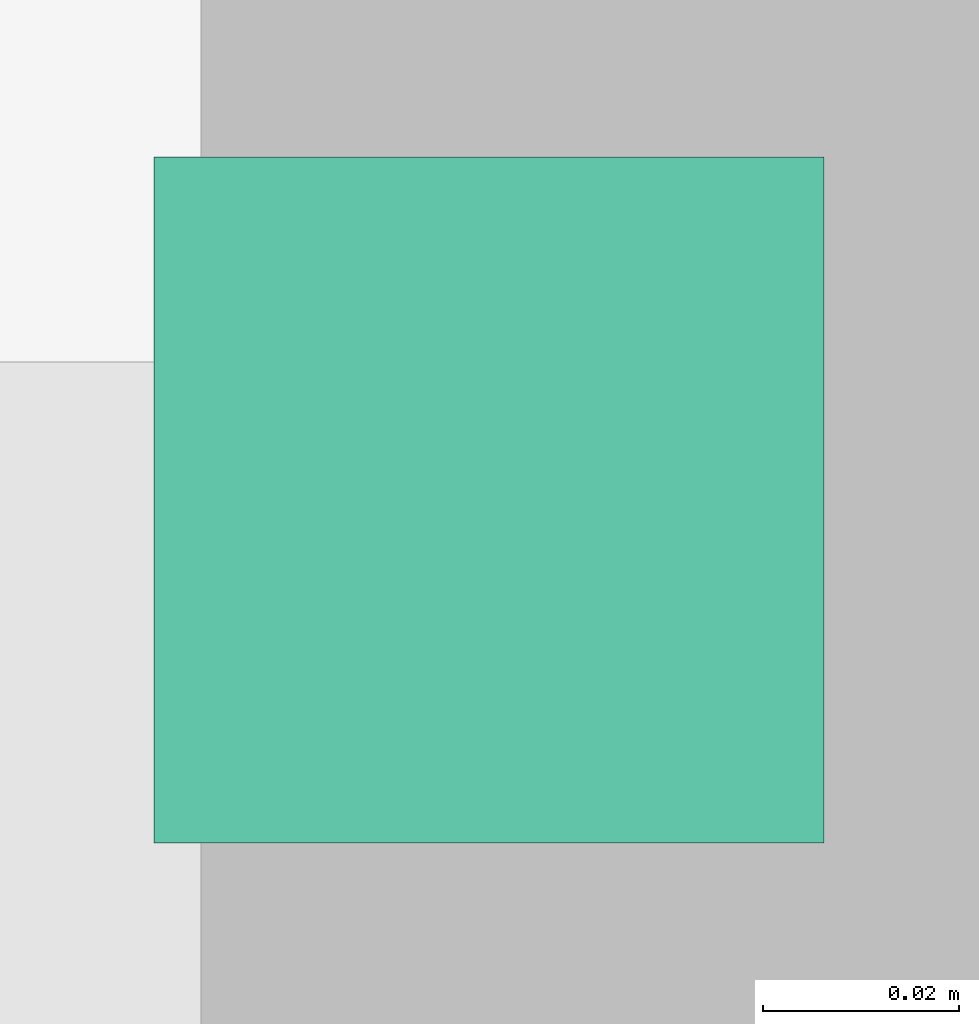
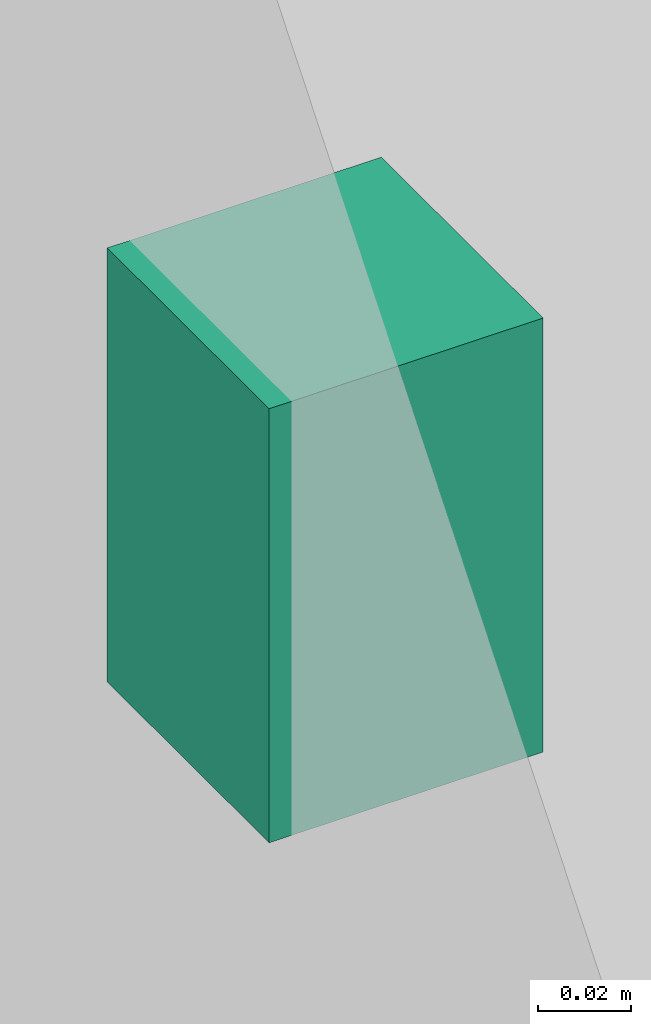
# One storey, part 80 of 108: 1 outlet.
"""IFC4 building model written with IfcOpenShell, lengths in feet."""

from ifc_helpers import new_model, entity, si_unit, converted_unit, derived_unit, direction, frame, origin, origin_2d_with_axis, place, context, subcontext, project, spatial, rectangle, extrude, source, transform, mapped, type_object, type_shapes, element, save


model = new_model("IFC4")

# Units and contexts
model_context = context("Model", 3, precision=0.0001, world=origin(), true_north=direction((6.12303176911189e-17, 1.0)))
body_context = subcontext(model_context, "Body", "Model", "MODEL_VIEW")
ifc_project = project(units=[converted_unit("LENGTHUNIT", "FOOT", entity("IfcRatioMeasure", 0.3048), si_unit("LENGTHUNIT", "METRE"), dimensions=[1, 0, 0, 0, 0, 0, 0]), converted_unit("AREAUNIT", "SQUARE FOOT", entity("IfcRatioMeasure", 0.09290304), si_unit("AREAUNIT", "SQUARE_METRE"), dimensions=[2, 0, 0, 0, 0, 0, 0]), converted_unit("VOLUMEUNIT", "CUBIC FOOT", entity("IfcRatioMeasure", 0.028316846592), si_unit("VOLUMEUNIT", "CUBIC_METRE"), dimensions=[3, 0, 0, 0, 0, 0, 0]), converted_unit("PLANEANGLEUNIT", "DEGREE", entity("IfcRatioMeasure", 0.0174532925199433), si_unit("PLANEANGLEUNIT", "RADIAN"), dimensions=[0, 0, 0, 0, 0, 0, 0]), si_unit("MASSUNIT", "GRAM", prefix="KILO"), derived_unit("MASSDENSITYUNIT", [(si_unit("MASSUNIT", "GRAM", prefix="KILO"), 1), (si_unit("LENGTHUNIT", "METRE"), -3)]), si_unit("TIMEUNIT", "SECOND"), si_unit("FREQUENCYUNIT", "HERTZ"), si_unit("THERMODYNAMICTEMPERATUREUNIT", "DEGREE_CELSIUS"), derived_unit("THERMALTRANSMITTANCEUNIT", [(si_unit("MASSUNIT", "GRAM", prefix="KILO"), 1), (si_unit("THERMODYNAMICTEMPERATUREUNIT", "KELVIN"), -1), (si_unit("TIMEUNIT", "SECOND"), -3)]), derived_unit("VOLUMETRICFLOWRATEUNIT", [(si_unit("LENGTHUNIT", "METRE"), 3), (si_unit("TIMEUNIT", "SECOND"), -1)]), si_unit("ELECTRICCURRENTUNIT", "AMPERE"), si_unit("ELECTRICVOLTAGEUNIT", "VOLT"), si_unit("POWERUNIT", "WATT"), si_unit("FORCEUNIT", "NEWTON"), si_unit("ILLUMINANCEUNIT", "LUX"), si_unit("LUMINOUSFLUXUNIT", "LUMEN"), si_unit("LUMINOUSINTENSITYUNIT", "CANDELA"), derived_unit("USERDEFINED", [(si_unit("MASSUNIT", "GRAM", prefix="KILO"), -1), (si_unit("LENGTHUNIT", "METRE"), -2), (si_unit("TIMEUNIT", "SECOND"), 3), (si_unit("LUMINOUSFLUXUNIT", "LUMEN"), 1)]), derived_unit("LINEARVELOCITYUNIT", [(si_unit("LENGTHUNIT", "METRE"), 1), (si_unit("TIMEUNIT", "SECOND"), -1)]), si_unit("PRESSUREUNIT", "PASCAL"), derived_unit("USERDEFINED", [(si_unit("LENGTHUNIT", "METRE"), -2), (si_unit("MASSUNIT", "GRAM", prefix="KILO"), 1), (si_unit("TIMEUNIT", "SECOND"), -2)])], contexts=[model_context])

# Site, building, storey
site_placement = place(None, origin())
site = spatial("IfcSite", under=ifc_project, at=site_placement, Name="Default", CompositionType="ELEMENT")
building_placement = place(site_placement, origin())
building = spatial("IfcBuilding", under=site, at=building_placement, CompositionType="ELEMENT")
storey_placement = place(building_placement, frame((0.0, 0.0, 168.0)))
storey = spatial("IfcBuildingStorey", under=building, at=storey_placement, Name="Level 15", CompositionType="ELEMENT", Elevation=168.0)

# Outlet
outlet_type = type_object("IfcOutletType", Name="Duplex-Standard 2", PredefinedType="POWEROUTLET")
shared_shape = source(origin(), body_context, "Body", "SweptSolid", [
    extrude(rectangle(XDim=0.229166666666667, YDim=0.375000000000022, at=origin_2d_with_axis()), frame((0.0, 0.0, -0.208333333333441), z_axis=(0.0, 0.0, 1.0), x_axis=(-1.0, 0.0, 0.0)), (0.0, 0.0, 1.0), 0.208333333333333),
    extrude(rectangle(XDim=0.229166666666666, YDim=0.375000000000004, at=origin_2d_with_axis()), frame((0.0, 0.0, 0.0), z_axis=(0.0, 0.0, 1.0), x_axis=(-1.0, 0.0, 0.0)), (0.0, 0.0, 1.0), 0.015625),
])
type_shapes(outlet_type, [shared_shape])
outlet_placement = place(storey_placement, frame((29.4312406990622, -19.7657690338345, 2.3333333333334), z_axis=(-1.0, 0.0, 0.0), x_axis=(0.0, -1.0, 0.0)))
element("IfcOutlet", 1, at=outlet_placement, inside=storey, type_object=outlet_type, Name="Power-Recessed-All2:Duplex-Standard 2", ObjectType="Power-Recessed-All2:Duplex-Standard 2", PredefinedType="POWEROUTLET", context=body_context, shape_type="MappedRepresentation", body=[
    mapped(shared_shape, transform((0.0, 0.0, 0.0), scale=1.0)),
])

save(model, "model.ifc")
